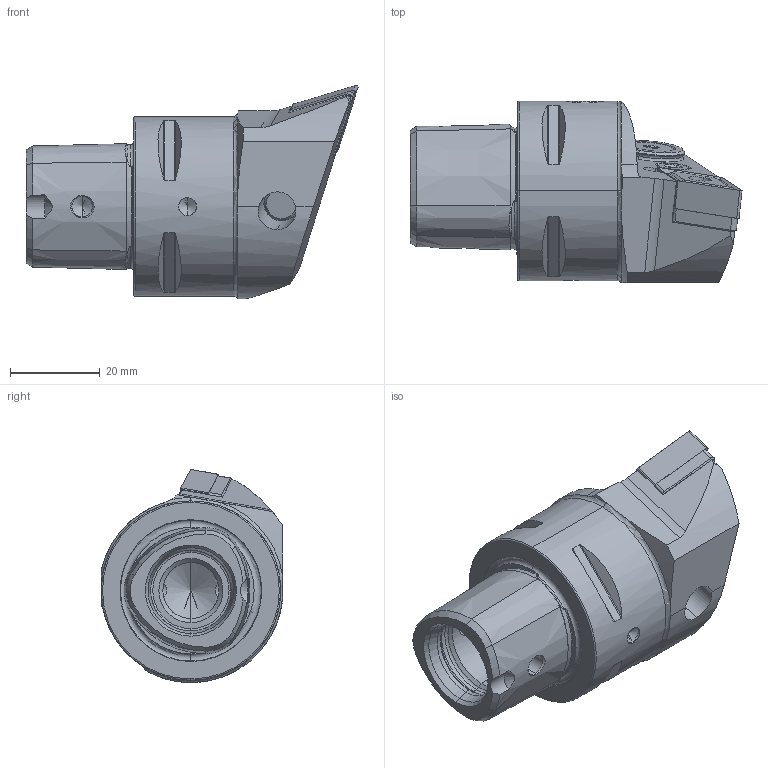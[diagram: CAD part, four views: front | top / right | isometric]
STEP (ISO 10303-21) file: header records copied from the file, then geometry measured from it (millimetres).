
FILE_DESCRIPTION (( 'STEP AP214' ), '1' );
FILE_NAME ('PS4.PDF.LHA.050-HP.STEP', '2020-09-11T12:15:55', ( '' ), ( '' ), 'SwSTEP 2.0', 'SolidWorks 2017', '' );
FILE_SCHEMA (( 'AUTOMOTIVE_DESIGN' ));
Length unit declared in the file: millimetre
Products named in the file (13): WDF-ER2.101.003_A; DIN 3771 - 13x1; ISO 8752 2x8; WCD-ER4.101.017_A; WDF-ER3.101.000_A; CHP-ER1.015.006_A; DIN 7991 - M5x15; CHP-ER1.015.006; PS4-PDF.LHA.050-HP_A; CHP-ER1.008.011_A; WCD-ER1.101.000; PS4.PDF.LHA.050-HP; DNMG150604
Assembly tree (12 placements, depth 3):
  PS4.PDF.LHA.050-HP
    PS4-PDF.LHA.050-HP_A
    WDF-ER3.101.000_A
    WCD-ER4.101.017_A
    WDF-ER2.101.003_A
    DNMG150604
    WCD-ER1.101.000
    CHP-ER1.008.011_A
    ISO 8752 2x8
    CHP-ER1.015.006
      CHP-ER1.015.006_A
      DIN 3771 - 13x1
      DIN 7991 - M5x15
Bounding box: 74 x 40.52 x 47.5 mm (x, y, z)
Volume: 50455.5 mm3; surface area: 18266.6 mm2
Topology: 11 solids, 11 shells, 456 faces, 1098 edges, 652 vertices
Faces by surface type: cone 138, plane 130, cylinder 115, torus 61, bspline 12
Entity records: 15048 total; most frequent: CARTESIAN_POINT 4113, DIRECTION 2187, ORIENTED_EDGE 2148, EDGE_CURVE 1074, AXIS2_PLACEMENT_3D 872, VERTEX_POINT 652, EDGE_LOOP 488, ADVANCED_FACE 456
